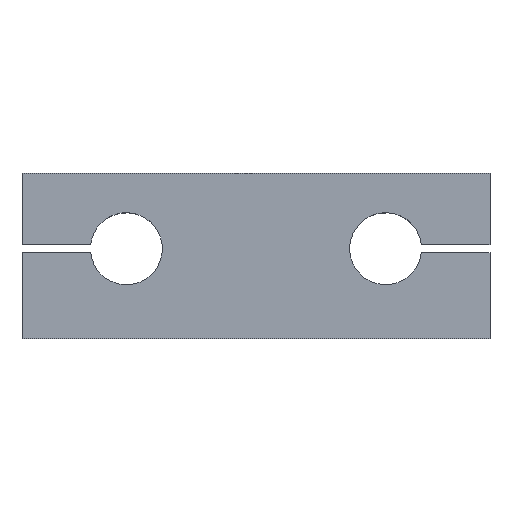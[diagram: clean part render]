
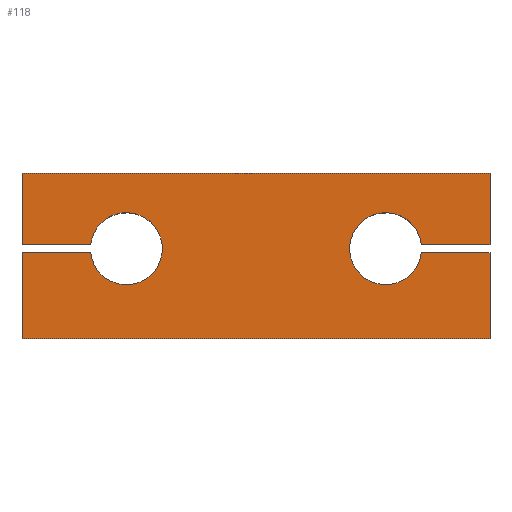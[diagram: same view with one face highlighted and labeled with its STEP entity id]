
A CAD part, top view. The second image highlights one B-rep face of the part: STEP entity #118.
In plain terms, the highlighted planar face has unit normal (0, 0, 1).
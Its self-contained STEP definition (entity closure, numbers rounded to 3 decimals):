
#1 = PLANE ( 'NONE',  #644 ) ;
#17 = EDGE_CURVE ( 'NONE', #452, #815, #482, .T. ) ;
#41 = LINE ( 'NONE', #117, #696 ) ;
#57 = ORIENTED_EDGE ( 'NONE', *, *, #620, .T. ) ;
#61 = ORIENTED_EDGE ( 'NONE', *, *, #951, .T. ) ;
#70 = AXIS2_PLACEMENT_3D ( 'NONE', #243, #77, #674 ) ;
#77 = DIRECTION ( 'NONE',  ( 0., 0., 1. ) ) ;
#91 = EDGE_CURVE ( 'NONE', #316, #379, #193, .T. ) ;
#104 = CARTESIAN_POINT ( 'NONE',  ( -65., 23., 10. ) ) ;
#108 = CARTESIAN_POINT ( 'NONE',  ( 36., 2., 10. ) ) ;
#112 = LINE ( 'NONE', #723, #863 ) ;
#117 = CARTESIAN_POINT ( 'NONE',  ( 35., 3.075, 10. ) ) ;
#118 = ADVANCED_FACE ( 'NONE', ( #1043 ), #1, .T. ) ;
#134 = ORIENTED_EDGE ( 'NONE', *, *, #288, .T. ) ;
#141 = CARTESIAN_POINT ( 'NONE',  ( -65., 0.925, 10. ) ) ;
#150 = VERTEX_POINT ( 'NONE', #784 ) ;
#151 = CARTESIAN_POINT ( 'NONE',  ( 65., -23., 10. ) ) ;
#164 = VECTOR ( 'NONE', #261, 1000. ) ;
#175 = LINE ( 'NONE', #553, #272 ) ;
#193 = LINE ( 'NONE', #104, #664 ) ;
#196 = DIRECTION ( 'NONE',  ( 1., 0., 0. ) ) ;
#201 = EDGE_CURVE ( 'NONE', #811, #918, #175, .T. ) ;
#204 = DIRECTION ( 'NONE',  ( 0., 1., 0. ) ) ;
#210 = DIRECTION ( 'NONE',  ( 1., 0., 0. ) ) ;
#222 = DIRECTION ( 'NONE',  ( -1., 0., 0. ) ) ;
#224 = EDGE_CURVE ( 'NONE', #815, #379, #296, .T. ) ;
#229 = CARTESIAN_POINT ( 'NONE',  ( 65., 23., 10. ) ) ;
#230 = VERTEX_POINT ( 'NONE', #302 ) ;
#243 = CARTESIAN_POINT ( 'NONE',  ( -36., 2., 10. ) ) ;
#252 = CARTESIAN_POINT ( 'NONE',  ( -45.942, 3.075, 10. ) ) ;
#261 = DIRECTION ( 'NONE',  ( 1., 0., 0. ) ) ;
#264 = EDGE_CURVE ( 'NONE', #750, #706, #112, .T. ) ;
#267 = CARTESIAN_POINT ( 'NONE',  ( 0., 0., 10. ) ) ;
#268 = LINE ( 'NONE', #527, #344 ) ;
#270 = CARTESIAN_POINT ( 'NONE',  ( -65., 23., 10. ) ) ;
#272 = VECTOR ( 'NONE', #547, 1000. ) ;
#274 = EDGE_CURVE ( 'NONE', #150, #892, #41, .T. ) ;
#288 = EDGE_CURVE ( 'NONE', #706, #828, #812, .T. ) ;
#296 = LINE ( 'NONE', #468, #313 ) ;
#302 = CARTESIAN_POINT ( 'NONE',  ( 45.942, 0.925, 10. ) ) ;
#306 = EDGE_CURVE ( 'NONE', #230, #828, #684, .T. ) ;
#313 = VECTOR ( 'NONE', #891, 1000. ) ;
#316 = VERTEX_POINT ( 'NONE', #270 ) ;
#317 = ORIENTED_EDGE ( 'NONE', *, *, #469, .T. ) ;
#323 = ORIENTED_EDGE ( 'NONE', *, *, #459, .F. ) ;
#344 = VECTOR ( 'NONE', #353, 1000. ) ;
#349 = CARTESIAN_POINT ( 'NONE',  ( -65., 3.075, 10. ) ) ;
#353 = DIRECTION ( 'NONE',  ( 0., -1., 0. ) ) ;
#356 = DIRECTION ( 'NONE',  ( 1., 0., 0. ) ) ;
#376 = CARTESIAN_POINT ( 'NONE',  ( 65., 23., 10. ) ) ;
#377 = VECTOR ( 'NONE', #204, 1000. ) ;
#379 = VERTEX_POINT ( 'NONE', #349 ) ;
#416 = LINE ( 'NONE', #229, #967 ) ;
#435 = CARTESIAN_POINT ( 'NONE',  ( -36., 2., 10. ) ) ;
#440 = AXIS2_PLACEMENT_3D ( 'NONE', #435, #862, #596 ) ;
#441 = ORIENTED_EDGE ( 'NONE', *, *, #274, .F. ) ;
#446 = VECTOR ( 'NONE', #222, 1000. ) ;
#450 = DIRECTION ( 'NONE',  ( 0., -1., 0. ) ) ;
#452 = VERTEX_POINT ( 'NONE', #902 ) ;
#459 = EDGE_CURVE ( 'NONE', #892, #230, #1037, .T. ) ;
#468 = CARTESIAN_POINT ( 'NONE',  ( -65., 3.075, 10. ) ) ;
#469 = EDGE_CURVE ( 'NONE', #846, #316, #705, .T. ) ;
#482 = CIRCLE ( 'NONE', #70, 10. ) ;
#497 = CARTESIAN_POINT ( 'NONE',  ( -45.942, 0.925, 10. ) ) ;
#527 = CARTESIAN_POINT ( 'NONE',  ( -65., 23., 10. ) ) ;
#534 = CARTESIAN_POINT ( 'NONE',  ( -65., 23., 10. ) ) ;
#547 = DIRECTION ( 'NONE',  ( 1., 0., 0. ) ) ;
#552 = ORIENTED_EDGE ( 'NONE', *, *, #91, .T. ) ;
#553 = CARTESIAN_POINT ( 'NONE',  ( -65., 0.925, 10. ) ) ;
#596 = DIRECTION ( 'NONE',  ( 1., 0., 0. ) ) ;
#620 = EDGE_CURVE ( 'NONE', #150, #846, #416, .T. ) ;
#633 = ORIENTED_EDGE ( 'NONE', *, *, #931, .F. ) ;
#643 = DIRECTION ( 'NONE',  ( 0., 0., 1. ) ) ;
#644 = AXIS2_PLACEMENT_3D ( 'NONE', #267, #1039, #356 ) ;
#664 = VECTOR ( 'NONE', #450, 1000. ) ;
#674 = DIRECTION ( 'NONE',  ( 1., 0., 0. ) ) ;
#675 = CARTESIAN_POINT ( 'NONE',  ( 65., 23., 10. ) ) ;
#684 = LINE ( 'NONE', #854, #164 ) ;
#696 = VECTOR ( 'NONE', #1061, 1000. ) ;
#705 = LINE ( 'NONE', #534, #446 ) ;
#706 = VERTEX_POINT ( 'NONE', #151 ) ;
#723 = CARTESIAN_POINT ( 'NONE',  ( -65., -23., 10. ) ) ;
#745 = ORIENTED_EDGE ( 'NONE', *, *, #17, .F. ) ;
#750 = VERTEX_POINT ( 'NONE', #765 ) ;
#765 = CARTESIAN_POINT ( 'NONE',  ( -65., -23., 10. ) ) ;
#784 = CARTESIAN_POINT ( 'NONE',  ( 65., 3.075, 10. ) ) ;
#797 = CIRCLE ( 'NONE', #440, 10. ) ;
#811 = VERTEX_POINT ( 'NONE', #141 ) ;
#812 = LINE ( 'NONE', #376, #377 ) ;
#815 = VERTEX_POINT ( 'NONE', #252 ) ;
#828 = VERTEX_POINT ( 'NONE', #1085 ) ;
#832 = DIRECTION ( 'NONE',  ( 0., 1., 0. ) ) ;
#834 = ORIENTED_EDGE ( 'NONE', *, *, #306, .F. ) ;
#846 = VERTEX_POINT ( 'NONE', #675 ) ;
#854 = CARTESIAN_POINT ( 'NONE',  ( 35., 0.925, 10. ) ) ;
#862 = DIRECTION ( 'NONE',  ( 0., 0., 1. ) ) ;
#863 = VECTOR ( 'NONE', #210, 1000. ) ;
#891 = DIRECTION ( 'NONE',  ( -1., 0., 0. ) ) ;
#892 = VERTEX_POINT ( 'NONE', #919 ) ;
#902 = CARTESIAN_POINT ( 'NONE',  ( -26., 2., 10. ) ) ;
#918 = VERTEX_POINT ( 'NONE', #497 ) ;
#919 = CARTESIAN_POINT ( 'NONE',  ( 45.942, 3.075, 10. ) ) ;
#931 = EDGE_CURVE ( 'NONE', #918, #452, #797, .T. ) ;
#932 = AXIS2_PLACEMENT_3D ( 'NONE', #108, #643, #196 ) ;
#951 = EDGE_CURVE ( 'NONE', #811, #750, #268, .T. ) ;
#967 = VECTOR ( 'NONE', #832, 1000. ) ;
#974 = ORIENTED_EDGE ( 'NONE', *, *, #201, .F. ) ;
#989 = EDGE_LOOP ( 'NONE', ( #1042, #745, #633, #974, #61, #1012, #134, #834, #323, #441, #57, #317, #552 ) ) ;
#1012 = ORIENTED_EDGE ( 'NONE', *, *, #264, .T. ) ;
#1037 = CIRCLE ( 'NONE', #932, 10. ) ;
#1039 = DIRECTION ( 'NONE',  ( 0., 0., 1. ) ) ;
#1042 = ORIENTED_EDGE ( 'NONE', *, *, #224, .F. ) ;
#1043 = FACE_OUTER_BOUND ( 'NONE', #989, .T. ) ;
#1061 = DIRECTION ( 'NONE',  ( -1., 0., 0. ) ) ;
#1085 = CARTESIAN_POINT ( 'NONE',  ( 65., 0.925, 10. ) ) ;
